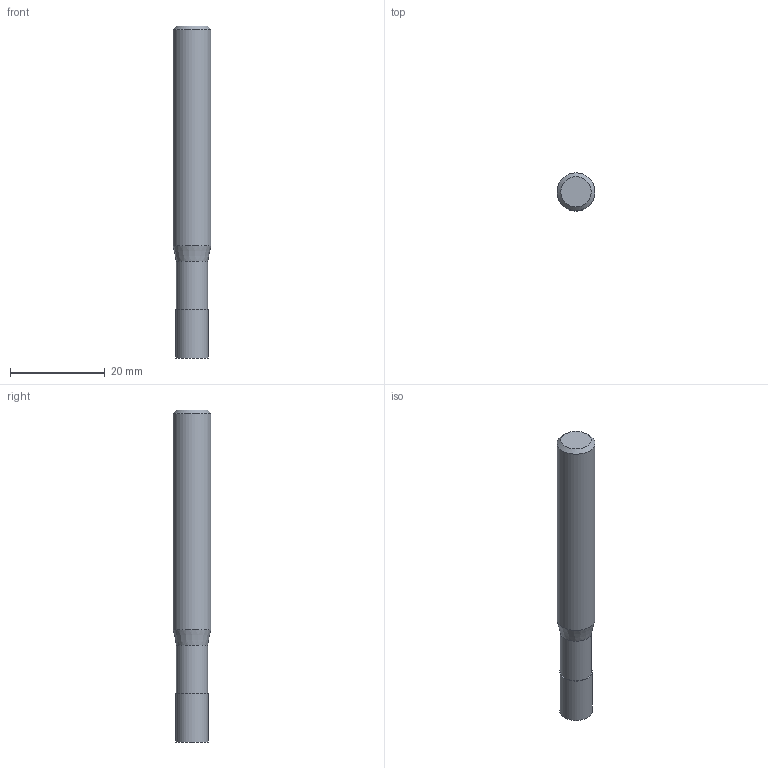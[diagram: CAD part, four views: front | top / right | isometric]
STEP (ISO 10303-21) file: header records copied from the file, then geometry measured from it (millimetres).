
FILE_DESCRIPTION((''),'2;1');
FILE_NAME('C:\Users\nsx150\AppData\Local\Temp\Mastercam 2021\EUJSUNXURU\TEMP.step','2021-04-22T10:29:03',(''),(''),'STEP Write','Mastercam 2021 ... CNC Software, Inc.','');
FILE_SCHEMA(('AUTOMOTIVE_DESIGN'));
Length unit declared in the file: millimetre
Products named in the file (1): None
Bounding box: 8 x 8 x 70 mm (x, y, z)
Volume: 3177.8 mm3; surface area: 1814.9 mm2
Topology: 2 solids, 2 shells, 9 faces, 12 edges, 7 vertices
Faces by surface type: plane 4, cylinder 3, cone 2
Full cylindrical faces by diameter (mm): 6.6 x1, 6.8 x1, 8 x1
Entity records: 211 total; most frequent: DIRECTION 36, CARTESIAN_POINT 25, AXIS2_PLACEMENT_3D 18, ORIENTED_EDGE 14, EDGE_LOOP 14, STYLED_ITEM 12, ADVANCED_FACE 9, FACE_BOUND 8
